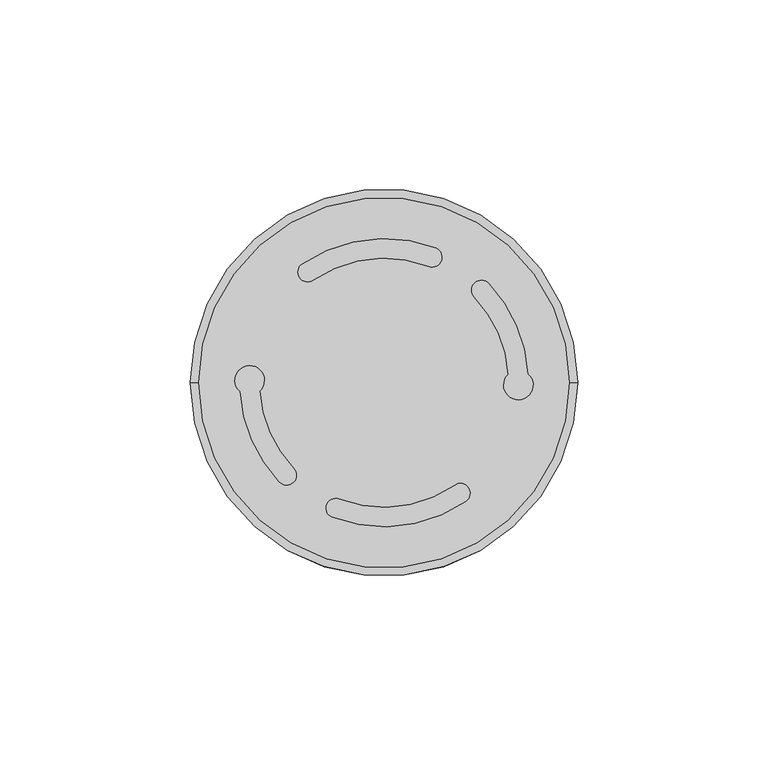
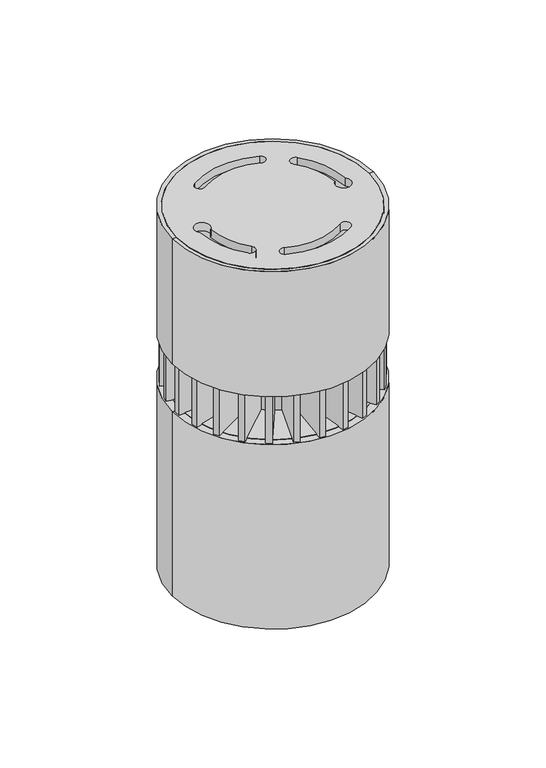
"""IFC4 building model written with IfcOpenShell, lengths in millimetres: light fixture geometry, LCALD4_SURFACE MOUNT BASIC CYLINDER : LCALD4060-T40."""

from ifc_helpers import new_model, si_unit, point, frame, frame_2d, origin, place, context, project, spatial, polyline, circle_curve, trimmed, segment, composite_curve, outline, extrude, source, transform, mapped, element, save
from ifc_brep_helpers import plane_surface, cylinder_surface, revolved_surface, advanced_brep


def light_fixture_ba52d31d(model_context):
    return source(origin(), model_context, "Body", "SolidModel", [
        extrude(outline(composite_curve([segment(trimmed(circle_curve(frame_2d((0.0, -33.7992882)), 46.7209966), [point((-46.7209966, -33.7992882))], [point((46.7209966, -33.7992882))], False, "CARTESIAN"), True, "CONTINUOUS"), segment(trimmed(circle_curve(frame_2d((0.0, -33.7992882)), 46.7209966), [point((46.7209966, -33.7992882))], [point((-46.7209966, -33.7992882))], False, "CARTESIAN"), True, "CONTINUOUS")], self_intersect=False)), frame((0.0, 0.0, -96.6973557), z_axis=(0.0, 0.0, 1.0), x_axis=(1.0, 0.0, 0.0)), (0.0, 0.0, 1.0), 4.4620639),
        extrude(outline(composite_curve([segment(trimmed(circle_curve(frame_2d((0.0, -33.7992882)), 47.276031), [point((-47.276031, -33.7992882))], [point((47.276031, -33.7992882))], False, "CARTESIAN"), True, "CONTINUOUS"), segment(trimmed(circle_curve(frame_2d((0.0, -33.7992882)), 47.276031), [point((47.276031, -33.7992882))], [point((-47.276031, -33.7992882))], False, "CARTESIAN"), True, "CONTINUOUS")], self_intersect=False)), frame((0.0, 0.0, -66.6719001), z_axis=(0.0, 0.0, 1.0), x_axis=(1.0, 0.0, 0.0)), (0.0, 0.0, 1.0), 9.5827234),
        extrude(outline(composite_curve([segment(polyline([(13.9565905, 13.9859703), (16.7261512, 13.0576522), (8.8222076, -10.5231133)]), True, "CONTINUOUS"), segment(trimmed(circle_curve(frame_2d((0.0, -33.7992882)), 24.892), [point((8.8222076, -10.5231133))], [point((6.0342241, -9.6497581))], True, "CARTESIAN"), True, "CONTINUOUS"), segment(polyline([(6.0342241, -9.6497581), (13.9565905, 13.9859703)]), True, "CONTINUOUS")], self_intersect=False)), frame((0.0, 0.0, -92.2352918), z_axis=(0.0, 0.0, 1.0), x_axis=(1.0, 0.0, 0.0)), (0.0, 0.0, 1.0), 25.5633916),
        extrude(outline(composite_curve([segment(polyline([(24.9867982, 9.2573868), (27.4537195, 7.6932447), (14.1362035, -13.3107691)]), True, "CONTINUOUS"), segment(trimmed(circle_curve(frame_2d((0.0, -33.7992882)), 24.892), [point((14.1362035, -13.3107691))], [point((11.6382414, -11.7955839))], True, "CARTESIAN"), True, "CONTINUOUS"), segment(polyline([(11.6382414, -11.7955839), (24.9867982, 9.2573868)]), True, "CONTINUOUS")], self_intersect=False)), frame((0.0, 0.0, -92.2352918), z_axis=(0.0, 0.0, 1.0), x_axis=(1.0, 0.0, 0.0)), (0.0, 0.0, 1.0), 25.5633916),
        extrude(outline(composite_curve([segment(polyline([(34.5648641, 2.0265058), (36.5857774, -0.082558), (18.6286547, -17.2891432)]), True, "CONTINUOUS"), segment(trimmed(circle_curve(frame_2d((0.0, -33.7992882)), 24.892), [point((18.6286547, -17.2891432))], [point((16.5658863, -15.220185))], True, "CARTESIAN"), True, "CONTINUOUS"), segment(polyline([(16.5658863, -15.220185), (34.5648641, 2.0265058)]), True, "CONTINUOUS")], self_intersect=False)), frame((0.0, 0.0, -92.2352918), z_axis=(0.0, 0.0, 1.0), x_axis=(1.0, 0.0, 0.0)), (0.0, 0.0, 1.0), 25.5633916),
        extrude(outline(composite_curve([segment(polyline([(42.1791271, -7.3580594), (43.6322817, -9.8919463), (22.0581043, -22.2644845)]), True, "CONTINUOUS"), segment(trimmed(circle_curve(frame_2d((0.0, -33.7992882)), 24.892), [point((22.0581043, -22.2644845))], [point((20.554664, -19.7594359))], True, "CARTESIAN"), True, "CONTINUOUS"), segment(polyline([(20.554664, -19.7594359), (42.1791271, -7.3580594)]), True, "CONTINUOUS")], self_intersect=False)), frame((0.0, 0.0, -92.2352918), z_axis=(0.0, 0.0, 1.0), x_axis=(1.0, 0.0, 0.0)), (0.0, 0.0, 1.0), 25.5633916),
        extrude(outline(composite_curve([segment(polyline([(47.2547438, -18.1402163), (48.0640428, -20.9468648), (24.1675015, -27.8374483)]), True, "CONTINUOUS"), segment(trimmed(circle_curve(frame_2d((0.0, -33.7992882)), 24.892), [point((24.1675015, -27.8374483))], [point((23.3025036, -25.0468606))], True, "CARTESIAN"), True, "CONTINUOUS"), segment(polyline([(23.3025036, -25.0468606), (47.2547438, -18.1402163)]), True, "CONTINUOUS")], self_intersect=False)), frame((0.0, 0.0, -92.2352918), z_axis=(0.0, 0.0, 1.0), x_axis=(1.0, 0.0, 0.0)), (0.0, 0.0, 1.0), 25.5633916),
        extrude(outline(composite_curve([segment(polyline([(49.629068, -29.9040408), (49.7431753, -32.8228112), (24.8919995, -33.7943503)]), True, "CONTINUOUS"), segment(trimmed(circle_curve(frame_2d((0.0, -33.7992882)), 24.892), [point((24.8919995, -33.7943503))], [point((24.7199682, -30.8778444))], True, "CARTESIAN"), True, "CONTINUOUS"), segment(polyline([(24.7199682, -30.8778444), (49.629068, -29.9040408)]), True, "CONTINUOUS")], self_intersect=False)), frame((0.0, 0.0, -92.2352918), z_axis=(0.0, 0.0, 1.0), x_axis=(1.0, 0.0, 0.0)), (0.0, 0.0, 1.0), 25.5633916),
        extrude(outline(composite_curve([segment(polyline([(49.1191312, -41.894243), (48.5314153, -44.7555069), (24.169865, -39.7515391)]), True, "CONTINUOUS"), segment(trimmed(circle_curve(frame_2d((0.0, -33.7992882)), 24.892), [point((24.169865, -39.7515391))], [point((24.7007982, -36.8786118))], True, "CARTESIAN"), True, "CONTINUOUS"), segment(polyline([(24.7007982, -36.8786118), (49.1191312, -41.894243)]), True, "CONTINUOUS")], self_intersect=False)), frame((0.0, 0.0, -92.2352918), z_axis=(0.0, 0.0, 1.0), x_axis=(1.0, 0.0, 0.0)), (0.0, 0.0, 1.0), 25.5633916),
        extrude(outline(composite_curve([segment(polyline([(45.7545691, -53.4139959), (44.4991858, -56.051467), (22.0430657, -45.3628048)]), True, "CONTINUOUS"), segment(trimmed(circle_curve(frame_2d((0.0, -33.7992882)), 24.892), [point((22.0430657, -45.3628048))], [point((23.2461075, -42.7004202))], True, "CARTESIAN"), True, "CONTINUOUS"), segment(polyline([(23.2461075, -42.7004202), (45.7545691, -53.4139959)]), True, "CONTINUOUS")], self_intersect=False)), frame((0.0, 0.0, -92.2352918), z_axis=(0.0, 0.0, 1.0), x_axis=(1.0, 0.0, 0.0)), (0.0, 0.0, 1.0), 25.5633916),
        extrude(outline(composite_curve([segment(polyline([(39.7309176, -63.7938132), (37.8808254, -66.0542113), (18.6352036, -50.302041)]), True, "CONTINUOUS"), segment(trimmed(circle_curve(frame_2d((0.0, -33.7992882)), 24.892), [point((18.6352036, -50.302041))], [point((20.4404375, -48.0049271))], True, "CARTESIAN"), True, "CONTINUOUS"), segment(polyline([(20.4404375, -48.0049271), (39.7309176, -63.7938132)]), True, "CONTINUOUS")], self_intersect=False)), frame((0.0, 0.0, -92.2352918), z_axis=(0.0, 0.0, 1.0), x_axis=(1.0, 0.0, 0.0)), (0.0, 0.0, 1.0), 25.5633916),
        extrude(outline(composite_curve([segment(polyline([(31.464832, -72.3762463), (29.1305766, -74.1322339), (14.179638, -54.2577713)]), True, "CONTINUOUS"), segment(trimmed(circle_curve(frame_2d((0.0, -33.7992882)), 24.892), [point((14.179638, -54.2577713))], [point((16.4790453, -52.4554595))], True, "CARTESIAN"), True, "CONTINUOUS"), segment(polyline([(16.4790453, -52.4554595), (31.464832, -72.3762463)]), True, "CONTINUOUS")], self_intersect=False)), frame((0.0, 0.0, -92.2352918), z_axis=(0.0, 0.0, 1.0), x_axis=(1.0, 0.0, 0.0)), (0.0, 0.0, 1.0), 25.5633916),
        extrude(outline(composite_curve([segment(polyline([(21.3136013, -78.7875949), (18.6268162, -79.9336433), (8.8690609, -57.0576506)]), True, "CONTINUOUS"), segment(trimmed(circle_curve(frame_2d((0.0, -33.7992882)), 24.892), [point((8.8690609, -57.0576506))], [point((11.5331024, -55.8582822))], True, "CARTESIAN"), True, "CONTINUOUS"), segment(polyline([(11.5331024, -55.8582822), (21.3136013, -78.7875949)]), True, "CONTINUOUS")], self_intersect=False)), frame((0.0, 0.0, -92.2352918), z_axis=(0.0, 0.0, 1.0), x_axis=(1.0, 0.0, 0.0)), (0.0, 0.0, 1.0), 25.5633916),
        extrude(outline(composite_curve([segment(polyline([(9.9226017, -82.5820651), (7.0395718, -83.0515108), (3.0425886, -58.5046382)]), True, "CONTINUOUS"), segment(trimmed(circle_curve(frame_2d((0.0, -33.7992882)), 24.892), [point((3.0425886, -58.5046382))], [point((5.9163022, -57.9779778))], True, "CARTESIAN"), True, "CONTINUOUS"), segment(polyline([(5.9163022, -57.9779778), (9.9226017, -82.5820651)]), True, "CONTINUOUS")], self_intersect=False)), frame((0.0, 0.0, -92.2352918), z_axis=(0.0, 0.0, 1.0), x_axis=(1.0, 0.0, 0.0)), (0.0, 0.0, 1.0), 25.5633916),
        extrude(outline(composite_curve([segment(polyline([(-2.0455755, -83.5389401), (-4.9571503, -83.3044764), (-2.960865, -58.5145657)]), True, "CONTINUOUS"), segment(trimmed(circle_curve(frame_2d((0.0, -33.7992882)), 24.892), [point((-2.960865, -58.5145657))], [point((-0.0446372, -58.6912482))], True, "CARTESIAN"), True, "CONTINUOUS"), segment(polyline([(-0.0446372, -58.6912482), (-2.0455755, -83.5389401)]), True, "CONTINUOUS")], self_intersect=False)), frame((0.0, 0.0, -92.2352918), z_axis=(0.0, 0.0, 1.0), x_axis=(1.0, 0.0, 0.0)), (0.0, 0.0, 1.0), 25.5633916),
        extrude(outline(composite_curve([segment(polyline([(-13.8947657, -81.6025604), (-16.6655249, -80.6778257), (-8.7920911, -57.0868557)]), True, "CONTINUOUS"), segment(trimmed(circle_curve(frame_2d((0.0, -33.7992882)), 24.892), [point((-8.7920911, -57.0868557))], [point((-6.0029802, -57.9566037))], True, "CARTESIAN"), True, "CONTINUOUS"), segment(polyline([(-6.0029802, -57.9566037), (-13.8947657, -81.6025604)]), True, "CONTINUOUS")], self_intersect=False)), frame((0.0, 0.0, -92.2352918), z_axis=(0.0, 0.0, 1.0), x_axis=(1.0, 0.0, 0.0)), (0.0, 0.0, 1.0), 25.5633916),
        extrude(outline(composite_curve([segment(polyline([(-25.0063452, -76.8446137), (-27.472556, -75.2793517), (-14.1455047, -54.2813867)]), True, "CONTINUOUS"), segment(trimmed(circle_curve(frame_2d((0.0, -33.7992882)), 24.892), [point((-14.1455047, -54.2813867))], [point((-11.6482308, -55.797706))], True, "CARTESIAN"), True, "CONTINUOUS"), segment(polyline([(-11.6482308, -55.797706), (-25.0063452, -76.8446137)]), True, "CONTINUOUS")], self_intersect=False)), frame((0.0, 0.0, -92.2352918), z_axis=(0.0, 0.0, 1.0), x_axis=(1.0, 0.0, 0.0)), (0.0, 0.0, 1.0), 25.5633916),
        extrude(outline(composite_curve([segment(polyline([(-34.5796487, -69.610812), (-36.5996913, -67.5009142), (-18.6354679, -50.3017425)]), True, "CONTINUOUS"), segment(trimmed(circle_curve(frame_2d((0.0, -33.7992882)), 24.892), [point((-18.6354679, -50.3017425))], [point((-16.5735537, -52.371552))], True, "CARTESIAN"), True, "CONTINUOUS"), segment(polyline([(-16.5735537, -52.371552), (-34.5796487, -69.610812)]), True, "CONTINUOUS")], self_intersect=False)), frame((0.0, 0.0, -92.2352918), z_axis=(0.0, 0.0, 1.0), x_axis=(1.0, 0.0, 0.0)), (0.0, 0.0, 1.0), 25.5633916),
        extrude(outline(composite_curve([segment(polyline([(-42.1439919, -60.2964822), (-43.6005087, -57.7645264), (-22.0427736, -45.3633617)]), True, "CONTINUOUS"), segment(trimmed(circle_curve(frame_2d((0.0, -33.7992882)), 24.892), [point((-22.0427736, -45.3633617))], [point((-20.5360094, -47.8664124))], True, "CARTESIAN"), True, "CONTINUOUS"), segment(polyline([(-20.5360094, -47.8664124), (-42.1439919, -60.2964822)]), True, "CONTINUOUS")], self_intersect=False)), frame((0.0, 0.0, -92.2352918), z_axis=(0.0, 0.0, 1.0), x_axis=(1.0, 0.0, 0.0)), (0.0, 0.0, 1.0), 25.5633916),
        extrude(outline(composite_curve([segment(polyline([(-47.259912, -49.4427552), (-48.0682842, -46.6358396), (-24.1694689, -39.7531473)]), True, "CONTINUOUS"), segment(trimmed(circle_curve(frame_2d((0.0, -33.7992882)), 24.892), [point((-24.1694689, -39.7531473))], [point((-23.3053925, -42.5440206))], True, "CARTESIAN"), True, "CONTINUOUS"), segment(polyline([(-23.3053925, -42.5440206), (-47.259912, -49.4427552)]), True, "CONTINUOUS")], self_intersect=False)), frame((0.0, 0.0, -92.2352918), z_axis=(0.0, 0.0, 1.0), x_axis=(1.0, 0.0, 0.0)), (0.0, 0.0, 1.0), 25.5633916),
        extrude(outline(composite_curve([segment(polyline([(-49.6301914, -37.6801958), (-49.7434554, -34.7613926), (-24.8919999, -33.797034)]), True, "CONTINUOUS"), segment(trimmed(circle_curve(frame_2d((0.0, -33.7992882)), 24.892), [point((-24.8919999, -33.797034))], [point((-24.7208113, -36.7135894))], True, "CARTESIAN"), True, "CONTINUOUS"), segment(polyline([(-24.7208113, -36.7135894), (-49.6301914, -37.6801958)]), True, "CONTINUOUS")], self_intersect=False)), frame((0.0, 0.0, -92.2352918), z_axis=(0.0, 0.0, 1.0), x_axis=(1.0, 0.0, 0.0)), (0.0, 0.0, 1.0), 25.5633916),
        extrude(outline(composite_curve([segment(polyline([(-49.1171249, -25.6921688), (-48.5287004, -22.8310506), (-24.1683901, -27.8410516)]), True, "CONTINUOUS"), segment(trimmed(circle_curve(frame_2d((0.0, -33.7992882)), 24.892), [point((-24.1683901, -27.8410516))], [point((-24.7000348, -30.7138473))], True, "CARTESIAN"), True, "CONTINUOUS"), segment(polyline([(-24.7000348, -30.7138473), (-49.1171249, -25.6921688)]), True, "CONTINUOUS")], self_intersect=False)), frame((0.0, 0.0, -92.2352918), z_axis=(0.0, 0.0, 1.0), x_axis=(1.0, 0.0, 0.0)), (0.0, 0.0, 1.0), 25.5633916),
        extrude(outline(composite_curve([segment(polyline([(-45.7830093, -14.2510554), (-44.5314581, -11.6117638), (-22.0598374, -22.2677993)]), True, "CONTINUOUS"), segment(trimmed(circle_curve(frame_2d((0.0, -33.7992882)), 24.892), [point((-22.0598374, -22.2677993))], [point((-23.259011, -24.9319284))], True, "CARTESIAN"), True, "CONTINUOUS"), segment(polyline([(-23.259011, -24.9319284), (-45.7830093, -14.2510554)]), True, "CONTINUOUS")], self_intersect=False)), frame((0.0, 0.0, -92.2352918), z_axis=(0.0, 0.0, 1.0), x_axis=(1.0, 0.0, 0.0)), (0.0, 0.0, 1.0), 25.5633916),
        extrude(outline(composite_curve([segment(polyline([(-39.7657422, -3.8509478), (-37.9182776, -1.5884015), (-18.654366, -17.3181993)]), True, "CONTINUOUS"), segment(trimmed(circle_curve(frame_2d((0.0, -33.7992882)), 24.892), [point((-18.654366, -17.3181993))], [point((-20.4569296, -19.6174091))], True, "CARTESIAN"), True, "CONTINUOUS"), segment(polyline([(-20.4569296, -19.6174091), (-39.7657422, -3.8509478)]), True, "CONTINUOUS")], self_intersect=False)), frame((0.0, 0.0, -92.2352918), z_axis=(0.0, 0.0, 1.0), x_axis=(1.0, 0.0, 0.0)), (0.0, 0.0, 1.0), 25.5633916),
        extrude(outline(composite_curve([segment(polyline([(-31.4319027, 4.8045049), (-29.0961497, 6.5585), (-14.1621756, -13.3287131)]), True, "CONTINUOUS"), segment(trimmed(circle_curve(frame_2d((0.0, -33.7992882)), 24.892), [point((-14.1621756, -13.3287131))], [point((-16.4631199, -15.129062))], True, "CARTESIAN"), True, "CONTINUOUS"), segment(polyline([(-16.4631199, -15.129062), (-31.4319027, 4.8045049)]), True, "CONTINUOUS")], self_intersect=False)), frame((0.0, 0.0, -92.2352918), z_axis=(0.0, 0.0, 1.0), x_axis=(1.0, 0.0, 0.0)), (0.0, 0.0, 1.0), 25.5633916),
        extrude(outline(composite_curve([segment(polyline([(-21.2669826, 11.211075), (-18.5790116, 12.3543392), (-8.8449608, -10.53175)]), True, "CONTINUOUS"), segment(trimmed(circle_curve(frame_2d((0.0, -33.7992882)), 24.892), [point((-8.8449608, -10.53175))], [point((-11.5102433, -11.7283579))], True, "CARTESIAN"), True, "CONTINUOUS"), segment(polyline([(-11.5102433, -11.7283579), (-21.2669826, 11.211075)]), True, "CONTINUOUS")], self_intersect=False)), frame((0.0, 0.0, -92.2352918), z_axis=(0.0, 0.0, 1.0), x_axis=(1.0, 0.0, 0.0)), (0.0, 0.0, 1.0), 25.5633916),
        extrude(outline(composite_curve([segment(polyline([(-9.8631441, 14.9955449), (-6.9795442, 15.4614767), (-3.0124786, -9.0902486)]), True, "CONTINUOUS"), segment(trimmed(circle_curve(frame_2d((0.0, -33.7992882)), 24.892), [point((-3.0124786, -9.0902486))], [point((-5.8868319, -9.6134065))], True, "CARTESIAN"), True, "CONTINUOUS"), segment(polyline([(-5.8868319, -9.6134065), (-9.8631441, 14.9955449)]), True, "CONTINUOUS")], self_intersect=False)), frame((0.0, 0.0, -92.2352918), z_axis=(0.0, 0.0, 1.0), x_axis=(1.0, 0.0, 0.0)), (0.0, 0.0, 1.0), 25.5633916),
        extrude(outline(composite_curve([segment(polyline([(2.1152765, 15.9374482), (5.0265198, 15.6989047), (2.995497, -9.0881842)]), True, "CONTINUOUS"), segment(trimmed(circle_curve(frame_2d((0.0, -33.7992882)), 24.892), [point((2.995497, -9.0881842))], [point((0.0795197, -8.9074152))], True, "CARTESIAN"), True, "CONTINUOUS"), segment(polyline([(0.0795197, -8.9074152), (2.1152765, 15.9374482)]), True, "CONTINUOUS")], self_intersect=False)), frame((0.0, 0.0, -92.2352918), z_axis=(0.0, 0.0, 1.0), x_axis=(1.0, 0.0, 0.0)), (0.0, 0.0, 1.0), 25.5633916),
        extrude(outline(composite_curve([segment(trimmed(circle_curve(frame_2d((0.0, -33.7992882)), 48.6180566), [point((-48.6180566, -33.7992882))], [point((48.6180566, -33.7992882))], False, "CARTESIAN"), True, "CONTINUOUS"), segment(trimmed(circle_curve(frame_2d((0.0, -33.7992882)), 48.6180566), [point((48.6180566, -33.7992882))], [point((-48.6180566, -33.7992882))], False, "CARTESIAN"), True, "CONTINUOUS")], self_intersect=False), holes=[composite_curve([segment(trimmed(circle_curve(frame_2d((-25.541563, -58.1372454)), 2.5667044), [point((-27.4801846, -59.8194219))], [point((-23.7546207, -56.2947447))], True, "CARTESIAN"), True, "CONTINUOUS"), segment(trimmed(circle_curve(frame_2d((0.0537245, -33.7701734)), 32.774893), [point((-23.7546207, -56.2947447))], [point((-32.6470135, -35.9736583))], False, "CARTESIAN"), True, "CONTINUOUS"), segment(trimmed(circle_curve(frame_2d((-35.2793334, -33.1662139)), 3.848487), [point((-32.6470135, -35.9736583))], [point((-37.7812554, -36.0904641))], True, "CARTESIAN"), True, "CONTINUOUS"), segment(trimmed(circle_curve(frame_2d((0.0420853, -33.7712235)), 37.8943793), [point((-37.7812554, -36.0904641))], [point((-27.4801846, -59.8194219))], True, "CARTESIAN"), True, "CONTINUOUS")], self_intersect=False), composite_curve([segment(trimmed(circle_curve(frame_2d((25.541563, -9.461331)), 2.5667044), [point((27.4801846, -7.7791546))], [point((23.7546207, -11.3038317))], True, "CARTESIAN"), True, "CONTINUOUS"), segment(trimmed(circle_curve(frame_2d((-0.0537245, -33.828403)), 32.774893), [point((23.7546207, -11.3038317))], [point((32.6470135, -31.6249181))], False, "CARTESIAN"), True, "CONTINUOUS"), segment(trimmed(circle_curve(frame_2d((35.2793334, -34.4323625)), 3.848487), [point((32.6470135, -31.6249181))], [point((37.7812554, -31.5081123))], True, "CARTESIAN"), True, "CONTINUOUS"), segment(trimmed(circle_curve(frame_2d((-0.0420853, -33.8273529)), 37.8943793), [point((37.7812554, -31.5081123))], [point((27.4801846, -7.7791546))], True, "CARTESIAN"), True, "CONTINUOUS")], self_intersect=False), composite_curve([segment(trimmed(circle_curve(frame_2d((-0.0106986, -33.7683925)), 32.7395758), [point((18.5716909, -60.7234406))], [point((-11.8190106, -64.3043318))], False, "CARTESIAN"), True, "CONTINUOUS"), segment(trimmed(circle_curve(frame_2d((-12.6528217, -66.7352994)), 2.5699892), [point((-11.8190106, -64.3043318))], [point((-13.6685172, -69.0960635))], True, "CARTESIAN"), True, "CONTINUOUS"), segment(trimmed(circle_curve(frame_2d((-0.0167412, -33.7268214)), 37.9124554), [point((-13.6685172, -69.0960635))], [point((21.4852342, -64.952121))], True, "CARTESIAN"), True, "CONTINUOUS"), segment(trimmed(circle_curve(frame_2d((20.0290195, -62.8373971)), 2.5676095), [point((21.4852342, -64.952121))], [point((18.5716909, -60.7234406))], True, "CARTESIAN"), True, "CONTINUOUS")], self_intersect=False), composite_curve([segment(trimmed(circle_curve(frame_2d((0.0106986, -33.8301839)), 32.7395758), [point((-18.5716909, -6.8751358))], [point((11.8190106, -3.2942446))], False, "CARTESIAN"), True, "CONTINUOUS"), segment(trimmed(circle_curve(frame_2d((12.6528217, -0.863277)), 2.5699892), [point((11.8190106, -3.2942446))], [point((13.6685172, 1.4974871))], True, "CARTESIAN"), True, "CONTINUOUS"), segment(trimmed(circle_curve(frame_2d((0.0167412, -33.871755)), 37.9124554), [point((13.6685172, 1.4974871))], [point((-21.4852342, -2.6464554))], True, "CARTESIAN"), True, "CONTINUOUS"), segment(trimmed(circle_curve(frame_2d((-20.0290195, -4.7611793)), 2.5676095), [point((-21.4852342, -2.6464554))], [point((-18.5716909, -6.8751358))], True, "CARTESIAN"), True, "CONTINUOUS")], self_intersect=False)]), frame((0.0, 0.0, -4.2333552), z_axis=(0.0, 0.0, 1.0), x_axis=(1.0, 0.0, 0.0)), (0.0, 0.0, 1.0), 4.2333552),
        extrude(outline(composite_curve([segment(trimmed(circle_curve(frame_2d((0.0, -33.7992882)), 24.892), [point((-24.892, -33.7992882))], [point((24.892, -33.7992882))], False, "CARTESIAN"), True, "CONTINUOUS"), segment(trimmed(circle_curve(frame_2d((0.0, -33.7992882)), 24.892), [point((24.892, -33.7992882))], [point((-24.892, -33.7992882))], False, "CARTESIAN"), True, "CONTINUOUS")], self_intersect=False)), frame((0.0, 0.0, -92.2352918), z_axis=(0.0, 0.0, 1.0), x_axis=(1.0, 0.0, 0.0)), (0.0, 0.0, 1.0), 25.5633916),
        advanced_brep(
        [(50.8, -33.7992882, -190.5), (-50.8, -33.7992882, -190.5), (-50.8, -33.7992882, -92.2352918), (50.8, -33.7992882, -92.2352918), (48.6180566, -33.7992882, -190.5), (-48.6180566, -33.7992882, -190.5), (-46.7209966, -33.7992882, -92.2352918), (46.7209966, -33.7992882, -92.2352918), (48.6180566, -33.7992882, -173.3870573), (-48.6180566, -33.7992882, -173.3870573), (46.7209966, -33.7992882, -173.3870573), (-46.7209966, -33.7992882, -173.3870573)],
        [
            (0, 1, circle_curve(frame((0.0, -33.7992882, -190.5), z_axis=(0.0, 0.0, 1.0), x_axis=(-1.0, 0.0, 0.0)), 50.8)),
            (1, 2),
            (2, 3, circle_curve(frame((0.0, -33.7992882, -92.2352918), z_axis=(0.0, 0.0, -1.0), x_axis=(-1.0, 0.0, 0.0)), 50.8)),
            (3, 0),
            (1, 0, circle_curve(frame((0.0, -33.7992882, -190.5), z_axis=(0.0, 0.0, 1.0), x_axis=(-1.0, 0.0, 0.0)), 50.8)),
            (3, 2, circle_curve(frame((0.0, -33.7992882, -92.2352918), z_axis=(0.0, 0.0, -1.0), x_axis=(-1.0, 0.0, 0.0)), 50.8)),
            (4, 5, circle_curve(frame((0.0, -33.7992882, -190.5), z_axis=(0.0, 0.0, 1.0), x_axis=(-1.0, 0.0, 0.0)), 48.6180566)),
            (5, 1),
            (0, 4),
            (5, 4, circle_curve(frame((0.0, -33.7992882, -190.5), z_axis=(0.0, 0.0, 1.0), x_axis=(-1.0, 0.0, 0.0)), 48.6180566)),
            (2, 6),
            (6, 7, circle_curve(frame((0.0, -33.7992882, -92.2352918), z_axis=(0.0, 0.0, -1.0), x_axis=(-1.0, 0.0, 0.0)), 46.7209966)),
            (7, 3),
            (7, 6, circle_curve(frame((0.0, -33.7992882, -92.2352918), z_axis=(0.0, 0.0, -1.0), x_axis=(-1.0, 0.0, 0.0)), 46.7209966)),
            (8, 9, circle_curve(frame((0.0, -33.7992882, -173.3870573), z_axis=(0.0, 0.0, 1.0), x_axis=(-1.0, 0.0, 0.0)), 48.6180566)),
            (9, 5),
            (4, 8),
            (9, 8, circle_curve(frame((0.0, -33.7992882, -173.3870573), z_axis=(0.0, 0.0, 1.0), x_axis=(-1.0, 0.0, 0.0)), 48.6180566)),
            (10, 11, circle_curve(frame((0.0, -33.7992882, -173.3870573), z_axis=(0.0, 0.0, 1.0), x_axis=(-1.0, 0.0, 0.0)), 46.7209966)),
            (11, 9),
            (8, 10),
            (11, 10, circle_curve(frame((0.0, -33.7992882, -173.3870573), z_axis=(0.0, 0.0, 1.0), x_axis=(-1.0, 0.0, 0.0)), 46.7209966)),
            (6, 11),
            (10, 7),
        ],
        [
            cylinder_surface(frame((0.0, -33.7992882, -546.8038941), z_axis=(0.0, 0.0, -1.0), x_axis=(-1.0, 0.0, 0.0)), 50.8),
            plane_surface(frame((0.0, -33.7992882, -190.5), z_axis=(0.0, 0.0, -1.0), x_axis=(-1.0, 0.0, 0.0))),
            plane_surface(frame((0.0, -33.7992882, -92.2352918), z_axis=(0.0, 0.0, 1.0), x_axis=(-1.0, 0.0, 0.0))),
            revolved_surface(polyline([(-48.6180566, -33.7992882, -190.5), (-48.6180566, -33.7992882, -173.38705730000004)]), (0.0, -33.7992882, -546.8038941), (0.0, 0.0, -1.0)),
            plane_surface(frame((0.0, -33.7992882, -173.3870573), z_axis=(0.0, 0.0, -1.0), x_axis=(-1.0, 0.0, 0.0))),
            revolved_surface(polyline([(-46.7209966, -33.7992882, -173.38705730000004), (-46.7209966, -33.7992882, -92.23529180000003)]), (0.0, -33.7992882, -546.8038941), (0.0, 0.0, -1.0)),
        ],
        [
            (0, [[1, 2, 3, 4]]),
            (0, [[5, -4, 6, -2]]),
            (1, [[7, 8, -1, 9]]),
            (1, [[10, -9, -5, -8]]),
            (2, [[-3, 11, 12, 13]]),
            (2, [[-6, -13, 14, -11]]),
            (3, [[15, 16, -7, 17]]),
            (3, [[18, -17, -10, -16]]),
            (4, [[19, 20, -15, 21]]),
            (4, [[22, -21, -18, -20]]),
            (5, [[-12, 23, -19, 24]]),
            (5, [[-14, -24, -22, -23]]),
        ],
    ),
        advanced_brep(
        [(50.8, -33.7992882, -66.6719001), (-50.8, -33.7992882, -66.6719001), (-50.8, -33.7992882, 0.0), (50.8, -33.7992882, 0.0), (48.6271783, -33.7992882, 0.0), (-48.6271783, -33.7992882, 0.0), (-48.6271783, -33.7992882, -4.2333552), (48.6271783, -33.7992882, -4.2333552), (47.276031, -33.7992882, -66.6719001), (-47.276031, -33.7992882, -66.6719001), (47.276031, -33.7992882, -57.0891767), (-47.276031, -33.7992882, -57.0891767), (46.4294518, -33.7992882, -4.2333552), (-46.4294518, -33.7992882, -4.2333552), (-46.4294518, -33.7992882, -57.0891767), (46.4294518, -33.7992882, -57.0891767)],
        [
            (0, 1, circle_curve(frame((0.0, -33.7992882, -66.6719001), z_axis=(0.0, 0.0, 1.0), x_axis=(-1.0, 0.0, 0.0)), 50.8)),
            (1, 2),
            (2, 3, circle_curve(frame((0.0, -33.7992882, 0.0), z_axis=(0.0, 0.0, -1.0), x_axis=(-1.0, 0.0, 0.0)), 50.8)),
            (3, 0),
            (1, 0, circle_curve(frame((0.0, -33.7992882, -66.6719001), z_axis=(0.0, 0.0, 1.0), x_axis=(-1.0, 0.0, 0.0)), 50.8)),
            (3, 2, circle_curve(frame((0.0, -33.7992882, 0.0), z_axis=(0.0, 0.0, -1.0), x_axis=(-1.0, 0.0, 0.0)), 50.8)),
            (4, 5, circle_curve(frame((0.0, -33.7992882, 0.0), z_axis=(0.0, 0.0, 1.0), x_axis=(-1.0, 0.0, 0.0)), 48.6271783)),
            (5, 6),
            (6, 7, circle_curve(frame((0.0, -33.7992882, -4.2333552), z_axis=(0.0, 0.0, -1.0), x_axis=(-1.0, 0.0, 0.0)), 48.6271783)),
            (7, 4),
            (5, 4, circle_curve(frame((0.0, -33.7992882, 0.0), z_axis=(0.0, 0.0, 1.0), x_axis=(-1.0, 0.0, 0.0)), 48.6271783)),
            (7, 6, circle_curve(frame((0.0, -33.7992882, -4.2333552), z_axis=(0.0, 0.0, -1.0), x_axis=(-1.0, 0.0, 0.0)), 48.6271783)),
            (2, 5),
            (4, 3),
            (8, 9, circle_curve(frame((0.0, -33.7992882, -66.6719001), z_axis=(0.0, 0.0, 1.0), x_axis=(-1.0, 0.0, 0.0)), 47.276031)),
            (9, 1),
            (0, 8),
            (9, 8, circle_curve(frame((0.0, -33.7992882, -66.6719001), z_axis=(0.0, 0.0, 1.0), x_axis=(-1.0, 0.0, 0.0)), 47.276031)),
            (10, 11, circle_curve(frame((0.0, -33.7992882, -57.0891767), z_axis=(0.0, 0.0, 1.0), x_axis=(-1.0, 0.0, 0.0)), 47.276031)),
            (11, 9),
            (8, 10),
            (11, 10, circle_curve(frame((0.0, -33.7992882, -57.0891767), z_axis=(0.0, 0.0, 1.0), x_axis=(-1.0, 0.0, 0.0)), 47.276031)),
            (12, 13, circle_curve(frame((0.0, -33.7992882, -4.2333552), z_axis=(0.0, 0.0, 1.0), x_axis=(-1.0, 0.0, 0.0)), 46.4294518)),
            (13, 14),
            (14, 15, circle_curve(frame((0.0, -33.7992882, -57.0891767), z_axis=(0.0, 0.0, -1.0), x_axis=(-1.0, 0.0, 0.0)), 46.4294518)),
            (15, 12),
            (13, 12, circle_curve(frame((0.0, -33.7992882, -4.2333552), z_axis=(0.0, 0.0, 1.0), x_axis=(-1.0, 0.0, 0.0)), 46.4294518)),
            (15, 14, circle_curve(frame((0.0, -33.7992882, -57.0891767), z_axis=(0.0, 0.0, -1.0), x_axis=(-1.0, 0.0, 0.0)), 46.4294518)),
            (6, 13),
            (12, 7),
            (14, 11),
            (10, 15),
        ],
        [
            cylinder_surface(frame((0.0, -33.7992882, -397.9372756), z_axis=(0.0, 0.0, -1.0), x_axis=(-1.0, 0.0, 0.0)), 50.8),
            revolved_surface(polyline([(-48.6271783, -33.7992882, -4.233355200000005), (-48.6271783, -33.7992882, 0.0)]), (0.0, -33.7992882, -397.9372756), (0.0, 0.0, -1.0)),
            plane_surface(frame((0.0, -33.7992882, 0.0), z_axis=(0.0, 0.0, 1.0), x_axis=(-1.0, 0.0, 0.0))),
            plane_surface(frame((0.0, -33.7992882, -66.6719001), z_axis=(0.0, 0.0, -1.0), x_axis=(-1.0, 0.0, 0.0))),
            revolved_surface(polyline([(-47.276031, -33.7992882, -66.67190010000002), (-47.276031, -33.7992882, -57.089176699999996)]), (0.0, -33.7992882, -397.9372756), (0.0, 0.0, -1.0)),
            revolved_surface(polyline([(-46.4294518, -33.7992882, -57.089176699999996), (-46.4294518, -33.7992882, -4.233355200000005)]), (0.0, -33.7992882, -397.9372756), (0.0, 0.0, -1.0)),
            plane_surface(frame((0.0, -33.7992882, -4.2333552), z_axis=(0.0, 0.0, 1.0), x_axis=(-1.0, 0.0, 0.0))),
            plane_surface(frame((0.0, -33.7992882, -57.0891767), z_axis=(0.0, 0.0, -1.0), x_axis=(-1.0, 0.0, 0.0))),
        ],
        [
            (0, [[1, 2, 3, 4]]),
            (0, [[5, -4, 6, -2]]),
            (1, [[7, 8, 9, 10]]),
            (1, [[11, -10, 12, -8]]),
            (2, [[-3, 13, -7, 14]]),
            (2, [[-6, -14, -11, -13]]),
            (3, [[15, 16, -1, 17]]),
            (3, [[18, -17, -5, -16]]),
            (4, [[19, 20, -15, 21]]),
            (4, [[22, -21, -18, -20]]),
            (5, [[23, 24, 25, 26]]),
            (5, [[27, -26, 28, -24]]),
            (6, [[-9, 29, -23, 30]]),
            (6, [[-12, -30, -27, -29]]),
            (7, [[-25, 31, -19, 32]]),
            (7, [[-28, -32, -22, -31]]),
        ],
    ),
        extrude(outline(composite_curve([segment(trimmed(circle_curve(frame_2d((0.0, -33.7992882)), 46.7209966), [point((-46.7209966, -33.7992882))], [point((46.7209966, -33.7992882))], False, "CARTESIAN"), True, "CONTINUOUS"), segment(trimmed(circle_curve(frame_2d((0.0, -33.7992882)), 46.7209966), [point((46.7209966, -33.7992882))], [point((-46.7209966, -33.7992882))], False, "CARTESIAN"), True, "CONTINUOUS")], self_intersect=False)), frame((0.0, 0.0, -173.3870573), z_axis=(0.0, 0.0, 1.0), x_axis=(1.0, 0.0, 0.0)), (0.0, 0.0, 1.0), 3.0868485),
    ])


if __name__ == "__main__":
    model = new_model("IFC4")
    model_context = context("Model", 3, world=origin())
    ifc_project = project(units=[si_unit("LENGTHUNIT", "METRE", prefix="MILLI")], contexts=[model_context])
    site = spatial("IfcSite", under=ifc_project)
    building = spatial("IfcBuilding", under=site)
    placement = place(None, origin())
    light_fixture_shape = light_fixture_ba52d31d(model_context)
    element("IfcLightFixture", 1, ObjectType="LCALD4_SURFACE MOUNT BASIC CYLINDER : LCALD4060-T40", at=placement, inside=building, context=model_context, shape_type="MappedRepresentation", body=[
        mapped(light_fixture_shape, transform((0.0, 0.0, 0.0), x_axis=(1.0, 0.0, 0.0), y_axis=(0.0, 1.0, 0.0), z_axis=(0.0, 0.0, 1.0))),
    ])
    save(model, "model.ifc")
